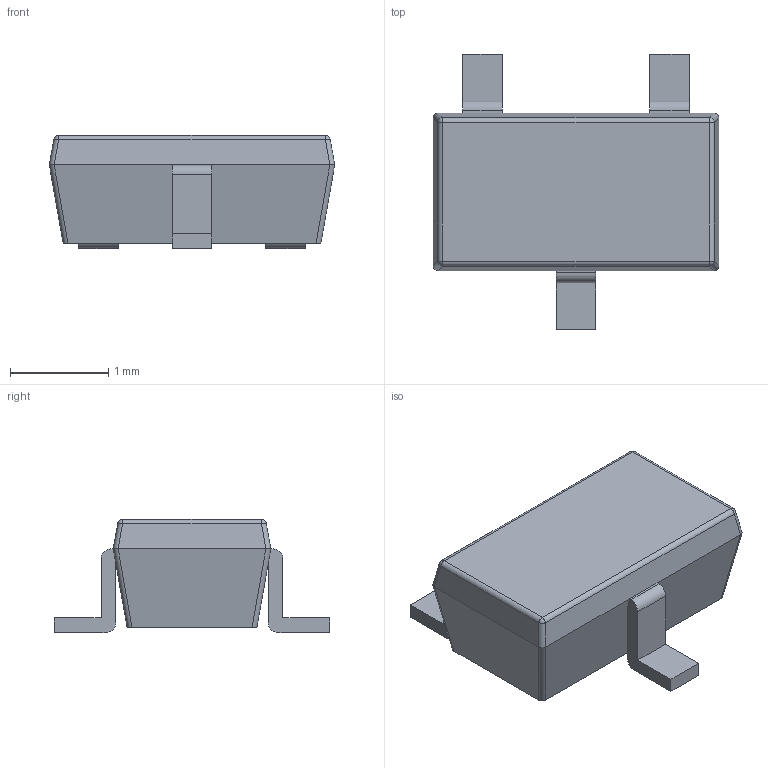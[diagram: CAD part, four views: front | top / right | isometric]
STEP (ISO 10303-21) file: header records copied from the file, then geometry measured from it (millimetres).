
FILE_DESCRIPTION (( 'STEP AP214' ), '1' );
FILE_NAME ('HGDxxT_SOT-23(3Pin).STEP', '2009-07-21T05:04:56', ( 'アルプス電気㈱' ), ( '' ), 'SwSTEP 2.0', 'SolidWorks 2007', '' );
FILE_SCHEMA (( 'AUTOMOTIVE_DESIGN' ));
Length unit declared in the file: millimetre
Products named in the file (1): HGDxxT_SOT-23(3Pin)
Bounding box: 2.9 x 2.8 x 1.15 mm (x, y, z)
Volume: 4.8 mm3; surface area: 21.1 mm2
Topology: 1 solids, 1 shells, 56 faces, 136 edges, 82 vertices
Faces by surface type: plane 34, cylinder 18, sphere 4
Entity records: 2048 total; most frequent: CARTESIAN_POINT 299, ORIENTED_EDGE 272, DIRECTION 266, EDGE_CURVE 136, VECTOR 104, LINE 104, VERTEX_POINT 82, AXIS2_PLACEMENT_3D 81
